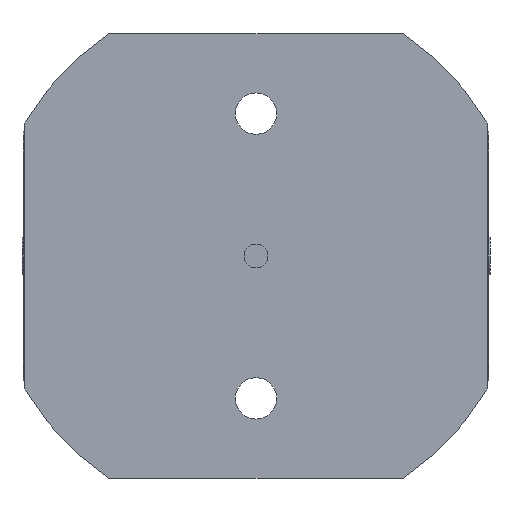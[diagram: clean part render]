
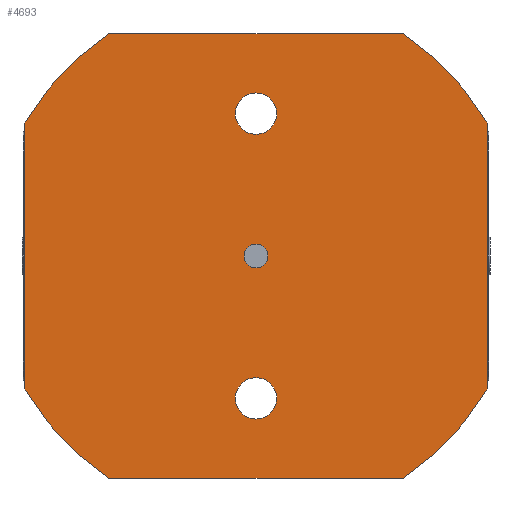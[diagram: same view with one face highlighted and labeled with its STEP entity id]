
A CAD part, front view. The second image highlights one B-rep face of the part: STEP entity #4693.
In plain terms, the highlighted planar face has unit normal (0, -1, 0).
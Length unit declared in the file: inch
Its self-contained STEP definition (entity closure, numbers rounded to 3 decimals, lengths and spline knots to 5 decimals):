
#3 = CARTESIAN_POINT ( 'NONE',  ( 0., 0., 0. ) ) ;
#85 = CIRCLE ( 'NONE', #296, 0.275 ) ;
#94 = CARTESIAN_POINT ( 'NONE',  ( -3.07087, 0., -1.76771 ) ) ;
#119 = ORIENTED_EDGE ( 'NONE', *, *, #4663, .F. ) ;
#182 = LINE ( 'NONE', #6035, #6214 ) ;
#190 = DIRECTION ( 'NONE',  ( 0., -1., 0. ) ) ;
#204 = VECTOR ( 'NONE', #4039, 39.37008 ) ;
#218 = FACE_OUTER_BOUND ( 'NONE', #2260, .T. ) ;
#250 = EDGE_CURVE ( 'NONE', #1516, #4679, #5339, .T. ) ;
#296 = AXIS2_PLACEMENT_3D ( 'NONE', #2308, #2779, #6192 ) ;
#299 = VERTEX_POINT ( 'NONE', #94 ) ;
#418 = CARTESIAN_POINT ( 'NONE',  ( -1.95864, 0., -2.95276 ) ) ;
#473 = ORIENTED_EDGE ( 'NONE', *, *, #2008, .F. ) ;
#481 = CARTESIAN_POINT ( 'NONE',  ( -3.07087, 0., 2.95276 ) ) ;
#510 = ORIENTED_EDGE ( 'NONE', *, *, #6052, .T. ) ;
#548 = DIRECTION ( 'NONE',  ( 0., 0., 1. ) ) ;
#614 = ORIENTED_EDGE ( 'NONE', *, *, #4612, .F. ) ;
#754 = ORIENTED_EDGE ( 'NONE', *, *, #250, .F. ) ;
#820 = CIRCLE ( 'NONE', #6006, 0.275 ) ;
#830 = FACE_BOUND ( 'NONE', #3040, .T. ) ;
#844 = CARTESIAN_POINT ( 'NONE',  ( 1.95864, 0., -2.95276 ) ) ;
#934 = CARTESIAN_POINT ( 'NONE',  ( -1.95864, 0., 2.95276 ) ) ;
#1048 = CIRCLE ( 'NONE', #2128, 3.54331 ) ;
#1071 = VERTEX_POINT ( 'NONE', #844 ) ;
#1078 = DIRECTION ( 'NONE',  ( 0., 0., 1. ) ) ;
#1189 = CARTESIAN_POINT ( 'NONE',  ( -3.07087, 0., 1.76771 ) ) ;
#1277 = AXIS2_PLACEMENT_3D ( 'NONE', #5213, #2801, #4815 ) ;
#1324 = EDGE_CURVE ( 'NONE', #4352, #6000, #5806, .T. ) ;
#1367 = VECTOR ( 'NONE', #548, 39.37008 ) ;
#1376 = AXIS2_PLACEMENT_3D ( 'NONE', #3863, #1507, #5369 ) ;
#1391 = VERTEX_POINT ( 'NONE', #4080 ) ;
#1401 = CIRCLE ( 'NONE', #1277, 3.54331 ) ;
#1507 = DIRECTION ( 'NONE',  ( 0., 1., 0. ) ) ;
#1516 = VERTEX_POINT ( 'NONE', #5727 ) ;
#1530 = DIRECTION ( 'NONE',  ( 1., 0., 0. ) ) ;
#1594 = VECTOR ( 'NONE', #1530, 39.37008 ) ;
#1604 = CARTESIAN_POINT ( 'NONE',  ( 0., 0., -0.158 ) ) ;
#1694 = EDGE_LOOP ( 'NONE', ( #6097, #510 ) ) ;
#1734 = CARTESIAN_POINT ( 'NONE',  ( 3.07087, 0., -2.95276 ) ) ;
#1740 = CARTESIAN_POINT ( 'NONE',  ( 0., 0., 1.8925 ) ) ;
#1766 = CARTESIAN_POINT ( 'NONE',  ( 0., 0., 0. ) ) ;
#2008 = EDGE_CURVE ( 'NONE', #1071, #4598, #182, .T. ) ;
#2016 = CARTESIAN_POINT ( 'NONE',  ( 0., 0., 0.158 ) ) ;
#2070 = CARTESIAN_POINT ( 'NONE',  ( 0., 0., -1.8925 ) ) ;
#2108 = DIRECTION ( 'NONE',  ( 0., 0., 1. ) ) ;
#2128 = AXIS2_PLACEMENT_3D ( 'NONE', #3877, #5885, #4919 ) ;
#2154 = ORIENTED_EDGE ( 'NONE', *, *, #2435, .T. ) ;
#2190 = VERTEX_POINT ( 'NONE', #6229 ) ;
#2257 = AXIS2_PLACEMENT_3D ( 'NONE', #1766, #3295, #2848 ) ;
#2260 = EDGE_LOOP ( 'NONE', ( #754, #119, #3825, #5950, #614, #473, #5852, #4016 ) ) ;
#2308 = CARTESIAN_POINT ( 'NONE',  ( 0., 0., -1.8925 ) ) ;
#2311 = VERTEX_POINT ( 'NONE', #4094 ) ;
#2402 = EDGE_LOOP ( 'NONE', ( #4897, #2154 ) ) ;
#2435 = EDGE_CURVE ( 'NONE', #2190, #4095, #85, .T. ) ;
#2444 = EDGE_CURVE ( 'NONE', #5640, #4250, #1401, .T. ) ;
#2642 = CIRCLE ( 'NONE', #1376, 0.275 ) ;
#2681 = AXIS2_PLACEMENT_3D ( 'NONE', #1740, #3695, #2744 ) ;
#2744 = DIRECTION ( 'NONE',  ( 0., 0., 1. ) ) ;
#2779 = DIRECTION ( 'NONE',  ( 0., 1., 0. ) ) ;
#2801 = DIRECTION ( 'NONE',  ( 0., 1., 0. ) ) ;
#2848 = DIRECTION ( 'NONE',  ( 0., 0., 1. ) ) ;
#2931 = CIRCLE ( 'NONE', #2257, 3.54331 ) ;
#2942 = CIRCLE ( 'NONE', #5700, 0.158 ) ;
#3040 = EDGE_LOOP ( 'NONE', ( #3732, #4440 ) ) ;
#3280 = EDGE_CURVE ( 'NONE', #299, #5640, #3557, .T. ) ;
#3295 = DIRECTION ( 'NONE',  ( 0., 1., 0. ) ) ;
#3316 = EDGE_CURVE ( 'NONE', #1391, #1071, #1048, .T. ) ;
#3418 = CARTESIAN_POINT ( 'NONE',  ( 3.07087, 0., 1.76771 ) ) ;
#3538 = AXIS2_PLACEMENT_3D ( 'NONE', #3935, #5859, #4436 ) ;
#3557 = LINE ( 'NONE', #5750, #1367 ) ;
#3579 = DIRECTION ( 'NONE',  ( -1., 0., 0. ) ) ;
#3601 = EDGE_CURVE ( 'NONE', #6000, #4352, #2942, .T. ) ;
#3643 = DIRECTION ( 'NONE',  ( 0., 0., -1. ) ) ;
#3695 = DIRECTION ( 'NONE',  ( 0., 1., 0. ) ) ;
#3732 = ORIENTED_EDGE ( 'NONE', *, *, #1324, .F. ) ;
#3825 = ORIENTED_EDGE ( 'NONE', *, *, #2444, .F. ) ;
#3863 = CARTESIAN_POINT ( 'NONE',  ( 0., 0., 1.8925 ) ) ;
#3877 = CARTESIAN_POINT ( 'NONE',  ( 0., 0., 0. ) ) ;
#3907 = DIRECTION ( 'NONE',  ( 0., 0., -1. ) ) ;
#3935 = CARTESIAN_POINT ( 'NONE',  ( 0., 0., 0. ) ) ;
#4016 = ORIENTED_EDGE ( 'NONE', *, *, #6217, .F. ) ;
#4039 = DIRECTION ( 'NONE',  ( 0., 0., -1. ) ) ;
#4080 = CARTESIAN_POINT ( 'NONE',  ( 3.07087, 0., -1.76771 ) ) ;
#4094 = CARTESIAN_POINT ( 'NONE',  ( 0., 0., 1.6175 ) ) ;
#4095 = VERTEX_POINT ( 'NONE', #5607 ) ;
#4127 = CARTESIAN_POINT ( 'NONE',  ( 0., 0., 0. ) ) ;
#4168 = LINE ( 'NONE', #481, #1594 ) ;
#4178 = AXIS2_PLACEMENT_3D ( 'NONE', #4936, #4480, #1078 ) ;
#4250 = VERTEX_POINT ( 'NONE', #934 ) ;
#4352 = VERTEX_POINT ( 'NONE', #1604 ) ;
#4394 = PLANE ( 'NONE',  #3538 ) ;
#4398 = FACE_BOUND ( 'NONE', #2402, .T. ) ;
#4436 = DIRECTION ( 'NONE',  ( 0., 0., 1. ) ) ;
#4440 = ORIENTED_EDGE ( 'NONE', *, *, #3601, .F. ) ;
#4463 = CIRCLE ( 'NONE', #2681, 0.275 ) ;
#4480 = DIRECTION ( 'NONE',  ( 0., 1., 0. ) ) ;
#4598 = VERTEX_POINT ( 'NONE', #418 ) ;
#4612 = EDGE_CURVE ( 'NONE', #4598, #299, #2931, .T. ) ;
#4663 = EDGE_CURVE ( 'NONE', #4250, #1516, #4168, .T. ) ;
#4679 = VERTEX_POINT ( 'NONE', #3418 ) ;
#4693 = ADVANCED_FACE ( 'NONE', ( #4398, #5932, #830, #218 ), #4394, .F. ) ;
#4815 = DIRECTION ( 'NONE',  ( 0., 0., 1. ) ) ;
#4839 = AXIS2_PLACEMENT_3D ( 'NONE', #4127, #190, #3643 ) ;
#4840 = DIRECTION ( 'NONE',  ( 0., -1., 0. ) ) ;
#4897 = ORIENTED_EDGE ( 'NONE', *, *, #5392, .T. ) ;
#4919 = DIRECTION ( 'NONE',  ( 0., 0., 1. ) ) ;
#4933 = CARTESIAN_POINT ( 'NONE',  ( 0., 0., 2.1675 ) ) ;
#4936 = CARTESIAN_POINT ( 'NONE',  ( 0., 0., 0. ) ) ;
#5213 = CARTESIAN_POINT ( 'NONE',  ( 0., 0., 0. ) ) ;
#5339 = CIRCLE ( 'NONE', #4178, 3.54331 ) ;
#5369 = DIRECTION ( 'NONE',  ( 0., 0., 1. ) ) ;
#5392 = EDGE_CURVE ( 'NONE', #4095, #2190, #820, .T. ) ;
#5464 = VERTEX_POINT ( 'NONE', #4933 ) ;
#5517 = LINE ( 'NONE', #1734, #204 ) ;
#5607 = CARTESIAN_POINT ( 'NONE',  ( 0., 0., -1.6175 ) ) ;
#5640 = VERTEX_POINT ( 'NONE', #1189 ) ;
#5685 = EDGE_CURVE ( 'NONE', #5464, #2311, #4463, .T. ) ;
#5700 = AXIS2_PLACEMENT_3D ( 'NONE', #3, #4840, #3907 ) ;
#5727 = CARTESIAN_POINT ( 'NONE',  ( 1.95864, 0., 2.95276 ) ) ;
#5750 = CARTESIAN_POINT ( 'NONE',  ( -3.07087, 0., -2.95276 ) ) ;
#5806 = CIRCLE ( 'NONE', #4839, 0.158 ) ;
#5852 = ORIENTED_EDGE ( 'NONE', *, *, #3316, .F. ) ;
#5859 = DIRECTION ( 'NONE',  ( 0., 1., 0. ) ) ;
#5885 = DIRECTION ( 'NONE',  ( 0., 1., 0. ) ) ;
#5932 = FACE_BOUND ( 'NONE', #1694, .T. ) ;
#5950 = ORIENTED_EDGE ( 'NONE', *, *, #3280, .F. ) ;
#5985 = DIRECTION ( 'NONE',  ( 0., 1., 0. ) ) ;
#6000 = VERTEX_POINT ( 'NONE', #2016 ) ;
#6006 = AXIS2_PLACEMENT_3D ( 'NONE', #2070, #5985, #2108 ) ;
#6035 = CARTESIAN_POINT ( 'NONE',  ( -3.07087, 0., -2.95276 ) ) ;
#6052 = EDGE_CURVE ( 'NONE', #2311, #5464, #2642, .T. ) ;
#6097 = ORIENTED_EDGE ( 'NONE', *, *, #5685, .T. ) ;
#6192 = DIRECTION ( 'NONE',  ( 0., 0., 1. ) ) ;
#6214 = VECTOR ( 'NONE', #3579, 39.37008 ) ;
#6217 = EDGE_CURVE ( 'NONE', #4679, #1391, #5517, .T. ) ;
#6229 = CARTESIAN_POINT ( 'NONE',  ( 0., 0., -2.1675 ) ) ;
